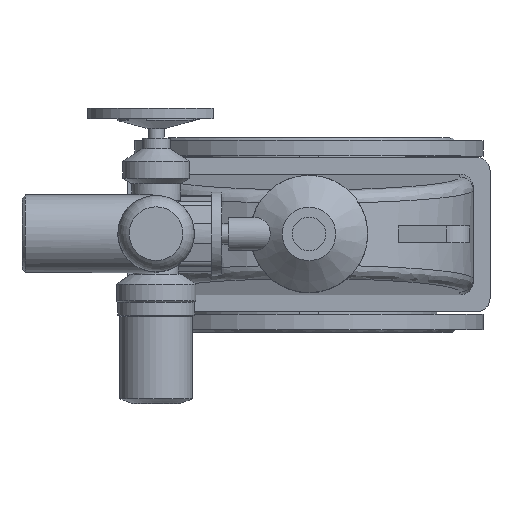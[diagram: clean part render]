
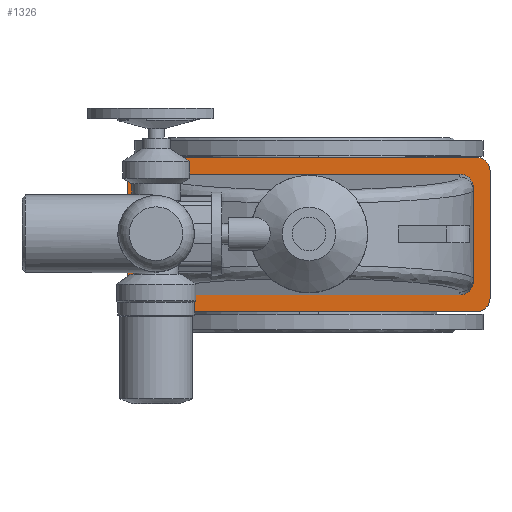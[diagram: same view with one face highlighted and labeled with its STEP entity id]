
A CAD part, top view. The second image highlights one B-rep face of the part: STEP entity #1326.
In plain terms, the highlighted planar face has unit normal (0, 0, 1).
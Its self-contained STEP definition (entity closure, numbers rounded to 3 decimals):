
#1326=ADVANCED_FACE('',(#5356,#5358),#5360,.T.);
#5356=FACE_BOUND('',#5357,.T.);
#5357=EDGE_LOOP('',(#8348,#8349,#8350,#8351,#8352,#8353,#8354,#8355));
#5358=FACE_BOUND('',#5359,.T.);
#5359=EDGE_LOOP('',(#8356,#8357,#8358,#8359,#8360,#8361,#8362,#8363));
#5360=PLANE('',#5361);
#5361=AXIS2_PLACEMENT_3D('',#5362,#5363,#5364);
#5362=CARTESIAN_POINT('',(0.,0.,586.));
#5363=DIRECTION('',(0.,-0.,1.));
#5364=DIRECTION('',(0.,1.,0.));
#8348=ORIENTED_EDGE('',*,*,#10083,.F.);
#8349=ORIENTED_EDGE('',*,*,#10084,.T.);
#8350=ORIENTED_EDGE('',*,*,#10085,.F.);
#8351=ORIENTED_EDGE('',*,*,#10086,.T.);
#8352=ORIENTED_EDGE('',*,*,#10087,.F.);
#8353=ORIENTED_EDGE('',*,*,#10088,.T.);
#8354=ORIENTED_EDGE('',*,*,#10089,.F.);
#8355=ORIENTED_EDGE('',*,*,#10090,.T.);
#8356=ORIENTED_EDGE('',*,*,#10081,.F.);
#8357=ORIENTED_EDGE('',*,*,#10080,.F.);
#8358=ORIENTED_EDGE('',*,*,#10082,.F.);
#8359=ORIENTED_EDGE('',*,*,#10057,.F.);
#8360=ORIENTED_EDGE('',*,*,#10091,.F.);
#8361=ORIENTED_EDGE('',*,*,#10092,.F.);
#8362=ORIENTED_EDGE('',*,*,#10093,.F.);
#8363=ORIENTED_EDGE('',*,*,#10050,.F.);
#10050=EDGE_CURVE('',#11239,#11241,#11242,.T.);
#10057=EDGE_CURVE('',#11251,#11249,#11253,.T.);
#10080=EDGE_CURVE('',#11288,#11286,#11290,.T.);
#10081=EDGE_CURVE('',#11286,#11239,#11291,.F.);
#10082=EDGE_CURVE('',#11249,#11288,#11292,.T.);
#10083=EDGE_CURVE('',#11293,#11294,#11295,.F.);
#10084=EDGE_CURVE('',#11293,#11296,#11297,.T.);
#10085=EDGE_CURVE('',#11298,#11296,#11299,.F.);
#10086=EDGE_CURVE('',#11298,#11300,#11301,.T.);
#10087=EDGE_CURVE('',#11302,#11300,#11303,.F.);
#10088=EDGE_CURVE('',#11302,#11304,#11305,.T.);
#10089=EDGE_CURVE('',#11306,#11304,#11307,.F.);
#10090=EDGE_CURVE('',#11306,#11294,#11308,.T.);
#10091=EDGE_CURVE('',#11309,#11251,#11310,.F.);
#10092=EDGE_CURVE('',#11311,#11309,#11312,.T.);
#10093=EDGE_CURVE('',#11241,#11311,#11313,.T.);
#11239=VERTEX_POINT('',#15041);
#11241=VERTEX_POINT('',#15045);
#11242=LINE('',#15046,#15047);
#11249=VERTEX_POINT('',#15066);
#11251=VERTEX_POINT('',#15070);
#11253=LINE('',#15074,#15075);
#11286=VERTEX_POINT('',#15157);
#11288=VERTEX_POINT('',#15161);
#11290=LINE('',#15165,#15166);
#11291=(BOUNDED_CURVE()B_SPLINE_CURVE(3,
(#15168,#15169,#15170,#15171),
.UNSPECIFIED.,.F.,.F.)B_SPLINE_CURVE_WITH_KNOTS((4,4),
(0.,1.),
.UNSPECIFIED.)CURVE()GEOMETRIC_REPRESENTATION_ITEM()RATIONAL_B_SPLINE_CURVE((1.,
0.805,0.805,1.))REPRESENTATION_ITEM(''));
#11292=(BOUNDED_CURVE()B_SPLINE_CURVE(3,
(#15172,#15173,#15174,#15175),
.UNSPECIFIED.,.F.,.F.)B_SPLINE_CURVE_WITH_KNOTS((4,4),
(0.,1.),
.UNSPECIFIED.)CURVE()GEOMETRIC_REPRESENTATION_ITEM()RATIONAL_B_SPLINE_CURVE((1.,
0.805,0.805,1.))REPRESENTATION_ITEM(''));
#11293=VERTEX_POINT('',#15176);
#11294=VERTEX_POINT('',#15177);
#11295=CIRCLE('',#15178,20.);
#11296=VERTEX_POINT('',#15182);
#11297=LINE('',#15183,#15184);
#11298=VERTEX_POINT('',#15186);
#11299=CIRCLE('',#15187,20.);
#11300=VERTEX_POINT('',#15191);
#11301=LINE('',#15192,#15193);
#11302=VERTEX_POINT('',#15195);
#11303=CIRCLE('',#15196,20.);
#11304=VERTEX_POINT('',#15200);
#11305=LINE('',#15201,#15202);
#11306=VERTEX_POINT('',#15204);
#11307=CIRCLE('',#15205,20.);
#11308=LINE('',#15209,#15210);
#11309=VERTEX_POINT('',#15212);
#11310=(BOUNDED_CURVE()B_SPLINE_CURVE(3,
(#15213,#15214,#15215,#15216),
.UNSPECIFIED.,.F.,.F.)B_SPLINE_CURVE_WITH_KNOTS((4,4),
(0.,1.),
.UNSPECIFIED.)CURVE()GEOMETRIC_REPRESENTATION_ITEM()RATIONAL_B_SPLINE_CURVE((1.,
0.805,0.805,1.))REPRESENTATION_ITEM(''));
#11311=VERTEX_POINT('',#15217);
#11312=LINE('',#15218,#15219);
#11313=(BOUNDED_CURVE()B_SPLINE_CURVE(3,
(#15221,#15222,#15223,#15224),
.UNSPECIFIED.,.F.,.F.)B_SPLINE_CURVE_WITH_KNOTS((4,4),
(0.,1.),
.UNSPECIFIED.)CURVE()GEOMETRIC_REPRESENTATION_ITEM()RATIONAL_B_SPLINE_CURVE((1.,
0.805,0.805,1.))REPRESENTATION_ITEM(''));
#15041=CARTESIAN_POINT('',(245.,-69.924,586.));
#15045=CARTESIAN_POINT('',(245.,69.924,586.));
#15046=CARTESIAN_POINT('',(245.,-69.924,586.));
#15047=VECTOR('',#15048,1.);
#15048=DIRECTION('',(0.,1.,0.));
#15066=CARTESIAN_POINT('',(-245.,-69.924,586.));
#15070=CARTESIAN_POINT('',(-245.,69.924,586.));
#15074=CARTESIAN_POINT('',(-245.,69.924,586.));
#15075=VECTOR('',#15076,1.);
#15076=DIRECTION('',(0.,-1.,0.));
#15157=CARTESIAN_POINT('',(225.,-90.,586.));
#15161=CARTESIAN_POINT('',(-225.,-90.,586.));
#15165=CARTESIAN_POINT('',(-225.,-90.,586.));
#15166=VECTOR('',#15167,1.);
#15167=DIRECTION('',(1.,0.,0.));
#15168=CARTESIAN_POINT('',(245.,-69.924,586.));
#15169=CARTESIAN_POINT('',(245.,-81.684,586.));
#15170=CARTESIAN_POINT('',(236.716,-90.,586.));
#15171=CARTESIAN_POINT('',(225.,-90.,586.));
#15172=CARTESIAN_POINT('',(-245.,-69.924,586.));
#15173=CARTESIAN_POINT('',(-245.,-81.684,586.));
#15174=CARTESIAN_POINT('',(-236.716,-90.,586.));
#15175=CARTESIAN_POINT('',(-225.,-90.,586.));
#15176=CARTESIAN_POINT('',(-250.,-115.,586.));
#15177=CARTESIAN_POINT('',(-270.,-95.,586.));
#15178=AXIS2_PLACEMENT_3D('',#15179,#15180,#15181);
#15179=CARTESIAN_POINT('',(-250.,-95.,586.));
#15180=DIRECTION('',(0.,-0.,1.));
#15181=DIRECTION('',(-1.,0.,0.));
#15182=CARTESIAN_POINT('',(250.,-115.,586.));
#15183=CARTESIAN_POINT('',(-250.,-115.,586.));
#15184=VECTOR('',#15185,1.);
#15185=DIRECTION('',(1.,0.,0.));
#15186=CARTESIAN_POINT('',(270.,-95.,586.));
#15187=AXIS2_PLACEMENT_3D('',#15188,#15189,#15190);
#15188=CARTESIAN_POINT('',(250.,-95.,586.));
#15189=DIRECTION('',(0.,-0.,1.));
#15190=DIRECTION('',(0.,-1.,0.));
#15191=CARTESIAN_POINT('',(270.,95.,586.));
#15192=CARTESIAN_POINT('',(270.,-95.,586.));
#15193=VECTOR('',#15194,1.);
#15194=DIRECTION('',(0.,1.,0.));
#15195=CARTESIAN_POINT('',(250.,115.,586.));
#15196=AXIS2_PLACEMENT_3D('',#15197,#15198,#15199);
#15197=CARTESIAN_POINT('',(250.,95.,586.));
#15198=DIRECTION('',(0.,-0.,1.));
#15199=DIRECTION('',(1.,0.,0.));
#15200=CARTESIAN_POINT('',(-250.,115.,586.));
#15201=CARTESIAN_POINT('',(250.,115.,586.));
#15202=VECTOR('',#15203,1.);
#15203=DIRECTION('',(-1.,0.,0.));
#15204=CARTESIAN_POINT('',(-270.,95.,586.));
#15205=AXIS2_PLACEMENT_3D('',#15206,#15207,#15208);
#15206=CARTESIAN_POINT('',(-250.,95.,586.));
#15207=DIRECTION('',(0.,-0.,1.));
#15208=DIRECTION('',(0.,1.,0.));
#15209=CARTESIAN_POINT('',(-270.,95.,586.));
#15210=VECTOR('',#15211,1.);
#15211=DIRECTION('',(0.,-1.,0.));
#15212=CARTESIAN_POINT('',(-225.,90.,586.));
#15213=CARTESIAN_POINT('',(-245.,69.924,586.));
#15214=CARTESIAN_POINT('',(-245.,81.684,586.));
#15215=CARTESIAN_POINT('',(-236.716,90.,586.));
#15216=CARTESIAN_POINT('',(-225.,90.,586.));
#15217=CARTESIAN_POINT('',(225.,90.,586.));
#15218=CARTESIAN_POINT('',(225.,90.,586.));
#15219=VECTOR('',#15220,1.);
#15220=DIRECTION('',(-1.,0.,0.));
#15221=CARTESIAN_POINT('',(245.,69.924,586.));
#15222=CARTESIAN_POINT('',(245.,81.684,586.));
#15223=CARTESIAN_POINT('',(236.716,90.,586.));
#15224=CARTESIAN_POINT('',(225.,90.,586.));
